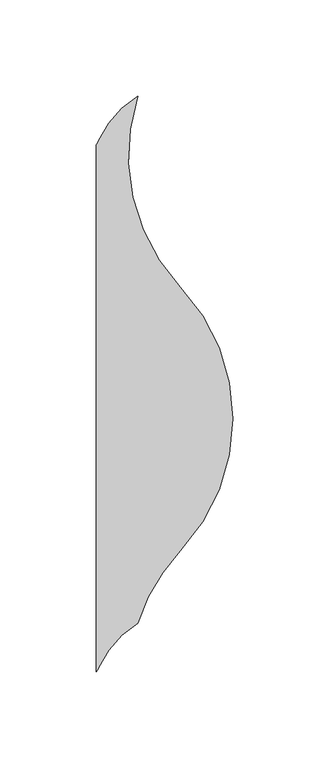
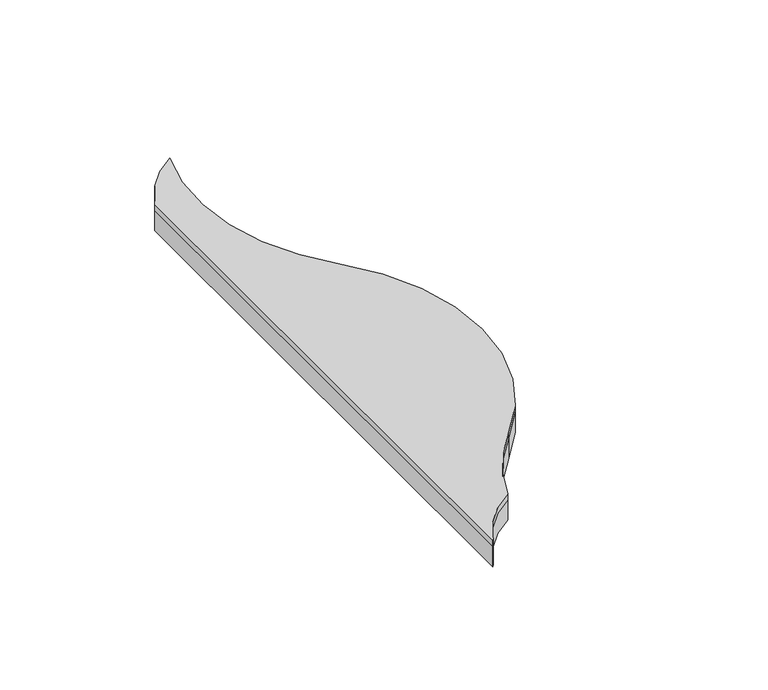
"""IFC4 building model written with IfcOpenShell, lengths in millimetres: proxy geometry, FilzFelt_Fish_Block : Fish Block."""

from ifc_helpers import new_model, si_unit, frame, origin, place, context, project, spatial, polyline, circle_curve, source, transform, mapped, element, save
from ifc_brep_helpers import plane_surface, cylinder_surface, revolved_surface, advanced_brep


def specialty_equipment_e3a5d67b(model_context):
    return source(origin(), model_context, "Body", "AdvancedBrep", [
        advanced_brep(
        [(53.5486457, -68.6120133, 10.0210937), (31.2619065, -106.3338576, 10.0210937), (11.0103348, -129.4133496, 10.0210937), (9.5821396, -131.8328689, 10.0210937), (9.5821396, 142.6151843, 10.0210937), (11.0103348, 145.0347036, 10.0210937), (31.2619065, 168.1141956, 10.0210937), (53.5486457, 68.6120133, 10.0210937), (53.5486457, -68.6120133, 12.9976563), (80.7142226, 0.0, 12.9976563), (53.5486457, 68.6120133, 12.9976563), (31.2619065, 168.1141956, 12.9976563), (11.0103348, 145.0347036, 12.9976563), (9.5821396, 142.6151843, 12.9976563), (9.5821396, -131.8328689, 12.9976563), (11.0103348, -129.4133496, 12.9976563), (31.2619065, -106.3338576, 12.9976563)],
        [
            (0, 1, circle_curve(frame((126.6124317, -137.2240266, 10.0210937), z_axis=(0.0, 0.0, 1.0), x_axis=(-1.0, 0.0, 0.0)), 100.2293629)),
            (1, 2, circle_curve(frame((57.9263497, -150.1559416, 10.0210937), z_axis=(0.0, 0.0, 1.0), x_axis=(-1.0, 0.0, 0.0)), 51.2968574)),
            (2, 3, circle_curve(frame((0.0, -124.5454408, 10.0210937), z_axis=(0.0, 0.0, -1.0), x_axis=(-1.0, 0.0, 0.0)), 12.0384388)),
            (3, 4),
            (4, 5, circle_curve(frame((0.0, 149.9026124, 10.0210937), z_axis=(0.0, 0.0, 1.0), x_axis=(-1.0, 0.0, 0.0)), 12.0384388)),
            (5, 6, circle_curve(frame((57.9263497, 124.2921115, 10.0210937), z_axis=(0.0, 0.0, -1.0), x_axis=(-1.0, 0.0, 0.0)), 51.2968574)),
            (6, 7, circle_curve(frame((126.6124317, 137.2240266, 10.0210937), z_axis=(0.0, 0.0, 1.0), x_axis=(-1.0, 0.0, 0.0)), 100.2293629)),
            (7, 0, circle_curve(frame((-19.5151403, 0.0, 10.0210937), z_axis=(0.0, 0.0, -1.0), x_axis=(-1.0, 0.0, 0.0)), 100.2293629)),
            (8, 9, circle_curve(frame((-19.5151403, 0.0, 12.9976563), z_axis=(0.0, 0.0, 1.0), x_axis=(-1.0, 0.0, 0.0)), 100.2293629)),
            (9, 10, circle_curve(frame((-19.5151403, 0.0, 12.9976563), z_axis=(0.0, 0.0, 1.0), x_axis=(-1.0, 0.0, 0.0)), 100.2293629)),
            (10, 11, circle_curve(frame((126.6124317, 137.2240266, 12.9976563), z_axis=(0.0, 0.0, -1.0), x_axis=(-1.0, 0.0, 0.0)), 100.2293629)),
            (11, 12, circle_curve(frame((57.9263497, 124.2921115, 12.9976563), z_axis=(0.0, 0.0, 1.0), x_axis=(-1.0, 0.0, 0.0)), 51.2968574)),
            (12, 13, circle_curve(frame((0.0, 149.9026124, 12.9976563), z_axis=(0.0, 0.0, -1.0), x_axis=(-1.0, 0.0, 0.0)), 12.0384388)),
            (13, 14),
            (14, 15, circle_curve(frame((0.0, -124.5454408, 12.9976563), z_axis=(0.0, 0.0, 1.0), x_axis=(-1.0, 0.0, 0.0)), 12.0384388)),
            (15, 16, circle_curve(frame((57.9263497, -150.1559416, 12.9976563), z_axis=(0.0, 0.0, -1.0), x_axis=(-1.0, 0.0, 0.0)), 51.2968574)),
            (16, 8, circle_curve(frame((126.6124317, -137.2240266, 12.9976563), z_axis=(0.0, 0.0, -1.0), x_axis=(-1.0, 0.0, 0.0)), 100.2293629)),
            (7, 10),
            (8, 0),
            (6, 11),
            (5, 12),
            (4, 13),
            (14, 3),
            (2, 15),
            (1, 16),
        ],
        [
            plane_surface(frame((0.0, 0.0, 10.0210937), z_axis=(0.0, 0.0, -1.0), x_axis=(0.0, 1.0, 0.0))),
            plane_surface(frame((0.0, 0.0, 12.9976563), z_axis=(0.0, 0.0, 1.0), x_axis=(0.0, 1.0, 0.0))),
            cylinder_surface(frame((-19.5151403, 0.0, 10.0210937), z_axis=(0.0, 0.0, -1.0), x_axis=(-1.0, 0.0, 0.0)), 100.2293629),
            revolved_surface(polyline([(26.383068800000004, 137.2240266, 12.9976563), (26.383068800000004, 137.2240266, 10.0210937)]), (126.6124317, 137.2240266, 10.0210937), (0.0, 0.0, 1.0)),
            cylinder_surface(frame((57.9263497, 124.2921115, 10.0210937), z_axis=(0.0, 0.0, -1.0), x_axis=(-1.0, 0.0, 0.0)), 51.2968574),
            revolved_surface(polyline([(-12.0384388, 149.9026124, 12.9976563), (-12.0384388, 149.9026124, 10.0210937)]), (0.0, 149.9026124, 10.0210937), (0.0, 0.0, 1.0)),
            cylinder_surface(frame((0.0, -124.5454408, 10.0210937), z_axis=(0.0, 0.0, -1.0), x_axis=(-1.0, 0.0, 0.0)), 12.0384388),
            revolved_surface(polyline([(6.629492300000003, -150.1559416, 12.9976563), (6.629492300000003, -150.1559416, 10.0210937)]), (57.9263497, -150.1559416, 10.0210937), (0.0, 0.0, 1.0)),
            revolved_surface(polyline([(26.383068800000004, -137.2240266, 12.9976563), (26.383068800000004, -137.2240266, 10.0210937)]), (126.6124317, -137.2240266, 10.0210937), (0.0, 0.0, 1.0)),
            plane_surface(frame((9.5821396, -168.3338795, 12.9976562), z_axis=(-1.0, 0.0, 0.0), x_axis=(0.0, 1.0, 0.0))),
        ],
        [
            (0, [[1, 2, 3, 4, 5, 6, 7, 8]]),
            (1, [[9, 10, 11, 12, 13, 14, 15, 16, 17]]),
            (2, [[18, -10, -9, 19, -8]]),
            (3, [[20, -11, -18, -7]]),
            (4, [[21, -12, -20, -6]]),
            (5, [[-5, 22, -13, -21]]),
            (6, [[-15, 23, -3, 24]]),
            (7, [[25, -16, -24, -2]]),
            (8, [[-19, -17, -25, -1]]),
            (9, [[-23, -14, -22, -4]]),
        ],
    ),
        advanced_brep(
        [(31.2619065, 168.1141956, 0.0), (53.5486457, 68.6120133, 0.0), (80.7142226, 0.0, 0.0), (53.5486457, -68.6120133, 0.0), (31.2619065, -106.3338576, 0.0), (11.0103348, -129.4133496, 0.0), (9.5821396, -131.8328689, 0.0), (9.5821396, 142.6151843, 0.0), (11.0103348, 145.0347036, 0.0), (31.2619065, 168.1141956, 10.0210937), (11.0103348, 145.0347036, 10.0210937), (9.5821396, 142.6151843, 10.0210937), (9.5821396, -131.8328689, 10.0210937), (11.0103348, -129.4133496, 10.0210937), (31.2619065, -106.3338576, 10.0210937), (53.5486457, -68.6120133, 10.0210937), (53.5486457, 68.6120133, 10.0210937)],
        [
            (0, 1, circle_curve(frame((126.6124317, 137.2240266, 0.0), z_axis=(0.0, 0.0, 1.0), x_axis=(-1.0, 0.0, 0.0)), 100.2293629)),
            (1, 2, circle_curve(frame((-19.5151403, 0.0, 0.0), z_axis=(0.0, 0.0, -1.0), x_axis=(-1.0, 0.0, 0.0)), 100.2293629)),
            (2, 3, circle_curve(frame((-19.5151403, 0.0, 0.0), z_axis=(0.0, 0.0, -1.0), x_axis=(-1.0, 0.0, 0.0)), 100.2293629)),
            (3, 4, circle_curve(frame((126.6124317, -137.2240266, 0.0), z_axis=(0.0, 0.0, 1.0), x_axis=(-1.0, 0.0, 0.0)), 100.2293629)),
            (4, 5, circle_curve(frame((57.9263497, -150.1559416, 0.0), z_axis=(0.0, 0.0, 1.0), x_axis=(-1.0, 0.0, 0.0)), 51.2968574)),
            (5, 6, circle_curve(frame((0.0, -124.5454408, 0.0), z_axis=(0.0, 0.0, -1.0), x_axis=(-1.0, 0.0, 0.0)), 12.0384388)),
            (6, 7),
            (7, 8, circle_curve(frame((0.0, 149.9026124, 0.0), z_axis=(0.0, 0.0, 1.0), x_axis=(-1.0, 0.0, 0.0)), 12.0384388)),
            (8, 0, circle_curve(frame((57.9263497, 124.2921115, 0.0), z_axis=(0.0, 0.0, -1.0), x_axis=(-1.0, 0.0, 0.0)), 51.2968574)),
            (9, 10, circle_curve(frame((57.9263497, 124.2921115, 10.0210937), z_axis=(0.0, 0.0, 1.0), x_axis=(-1.0, 0.0, 0.0)), 51.2968574)),
            (10, 11, circle_curve(frame((0.0, 149.9026124, 10.0210937), z_axis=(0.0, 0.0, -1.0), x_axis=(-1.0, 0.0, 0.0)), 12.0384388)),
            (11, 12),
            (12, 13, circle_curve(frame((0.0, -124.5454408, 10.0210937), z_axis=(0.0, 0.0, 1.0), x_axis=(-1.0, 0.0, 0.0)), 12.0384388)),
            (13, 14, circle_curve(frame((57.9263497, -150.1559416, 10.0210937), z_axis=(0.0, 0.0, -1.0), x_axis=(-1.0, 0.0, 0.0)), 51.2968574)),
            (14, 15, circle_curve(frame((126.6124317, -137.2240266, 10.0210937), z_axis=(0.0, 0.0, -1.0), x_axis=(-1.0, 0.0, 0.0)), 100.2293629)),
            (15, 16, circle_curve(frame((-19.5151403, 0.0, 10.0210937), z_axis=(0.0, 0.0, 1.0), x_axis=(-1.0, 0.0, 0.0)), 100.2293629)),
            (16, 9, circle_curve(frame((126.6124317, 137.2240266, 10.0210937), z_axis=(0.0, 0.0, -1.0), x_axis=(-1.0, 0.0, 0.0)), 100.2293629)),
            (8, 10),
            (9, 0),
            (7, 11),
            (12, 6),
            (5, 13),
            (4, 14),
            (3, 15),
            (1, 16),
        ],
        [
            plane_surface(frame((0.0, 0.0, 0.0), z_axis=(0.0, 0.0, -1.0), x_axis=(0.0, 1.0, 0.0))),
            plane_surface(frame((0.0, 0.0, 10.0210937), z_axis=(0.0, 0.0, 1.0), x_axis=(0.0, 1.0, 0.0))),
            cylinder_surface(frame((57.9263497, 124.2921115, 0.0), z_axis=(0.0, 0.0, -1.0), x_axis=(-1.0, 0.0, 0.0)), 51.2968574),
            revolved_surface(polyline([(-12.0384388, 149.9026124, 10.0210937), (-12.0384388, 149.9026124, 0.0)]), (0.0, 149.9026124, 0.0), (0.0, 0.0, 1.0)),
            cylinder_surface(frame((0.0, -124.5454408, 0.0), z_axis=(0.0, 0.0, -1.0), x_axis=(-1.0, 0.0, 0.0)), 12.0384388),
            revolved_surface(polyline([(6.629492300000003, -150.1559416, 10.0210937), (6.629492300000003, -150.1559416, 0.0)]), (57.9263497, -150.1559416, 0.0), (0.0, 0.0, 1.0)),
            revolved_surface(polyline([(26.383068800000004, -137.2240266, 10.0210937), (26.383068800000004, -137.2240266, 0.0)]), (126.6124317, -137.2240266, 0.0), (0.0, 0.0, 1.0)),
            cylinder_surface(frame((-19.5151403, 0.0, 0.0), z_axis=(0.0, 0.0, -1.0), x_axis=(-1.0, 0.0, 0.0)), 100.2293629),
            revolved_surface(polyline([(26.383068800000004, 137.2240266, 10.0210937), (26.383068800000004, 137.2240266, 0.0)]), (126.6124317, 137.2240266, 0.0), (0.0, 0.0, 1.0)),
            plane_surface(frame((9.5821396, -168.3338795, 12.9976562), z_axis=(-1.0, 0.0, 0.0), x_axis=(0.0, 1.0, 0.0))),
        ],
        [
            (0, [[1, 2, 3, 4, 5, 6, 7, 8, 9]]),
            (1, [[10, 11, 12, 13, 14, 15, 16, 17]]),
            (2, [[18, -10, 19, -9]]),
            (3, [[-8, 20, -11, -18]]),
            (4, [[-13, 21, -6, 22]]),
            (5, [[23, -14, -22, -5]]),
            (6, [[24, -15, -23, -4]]),
            (7, [[-24, -3, -2, 25, -16]]),
            (8, [[-19, -17, -25, -1]]),
            (9, [[-21, -12, -20, -7]]),
        ],
    ),
    ])


if __name__ == "__main__":
    model = new_model("IFC4")
    model_context = context("Model", 3, world=origin())
    ifc_project = project(units=[si_unit("LENGTHUNIT", "METRE", prefix="MILLI")], contexts=[model_context])
    site = spatial("IfcSite", under=ifc_project)
    building = spatial("IfcBuilding", under=site)
    placement = place(None, origin())
    specialty_equipment_shape = specialty_equipment_e3a5d67b(model_context)
    element("IfcBuildingElementProxy", 1, Name="FilzFelt_Fish_Block : Fish Block", ObjectType="FilzFelt_Fish_Block : Fish Block", at=placement, inside=building, context=model_context, shape_type="MappedRepresentation", body=[
        mapped(specialty_equipment_shape, transform((0.0, 0.0, 0.0), x_axis=(1.0, 0.0, 0.0), y_axis=(0.0, 1.0, 0.0), z_axis=(0.0, 0.0, 1.0))),
    ])
    save(model, "model.ifc")
